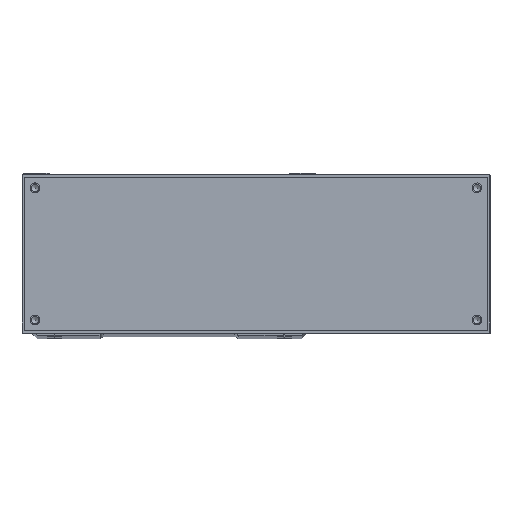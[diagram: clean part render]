
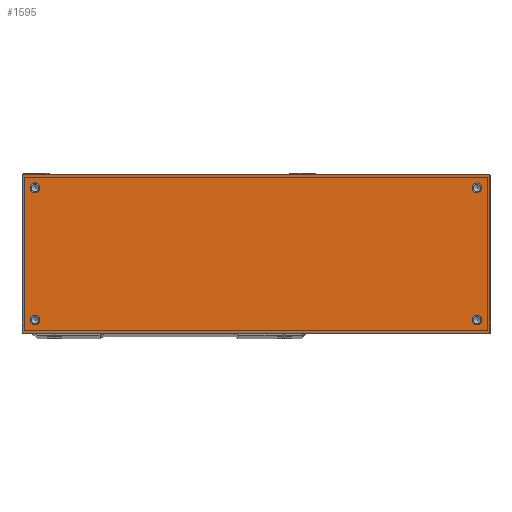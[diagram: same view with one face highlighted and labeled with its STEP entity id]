
A CAD part, top view. The second image highlights one B-rep face of the part: STEP entity #1595.
In plain terms, the highlighted planar face has unit normal (0, 0, 1).
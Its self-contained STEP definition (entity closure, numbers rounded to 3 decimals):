
#1595=ADVANCED_FACE('8',(#2755,#2756,#2757,#2758,#2759),#2361,.F.);
#2361=PLANE('',#16391);
#2755=FACE_BOUND('',#3772,.T.);
#2756=FACE_BOUND('',#3773,.T.);
#2757=FACE_BOUND('',#3774,.T.);
#2758=FACE_BOUND('',#3775,.T.);
#2759=FACE_BOUND('',#3776,.T.);
#3772=EDGE_LOOP('',(#6986));
#3773=EDGE_LOOP('',(#6987));
#3774=EDGE_LOOP('',(#6988));
#3775=EDGE_LOOP('',(#6989));
#3776=EDGE_LOOP('',(#6990,#6991,#6992,#6993));
#5156=CIRCLE('',#16387,2.25);
#5157=CIRCLE('',#16388,2.25);
#5158=CIRCLE('',#16389,2.25);
#5159=CIRCLE('',#16390,2.25);
#6986=ORIENTED_EDGE('',*,*,#12492,.F.);
#6987=ORIENTED_EDGE('',*,*,#12493,.F.);
#6988=ORIENTED_EDGE('',*,*,#12494,.F.);
#6989=ORIENTED_EDGE('',*,*,#12495,.F.);
#6990=ORIENTED_EDGE('',*,*,#12496,.F.);
#6991=ORIENTED_EDGE('',*,*,#12497,.F.);
#6992=ORIENTED_EDGE('',*,*,#12393,.F.);
#6993=ORIENTED_EDGE('',*,*,#12408,.F.);
#10633=VERTEX_POINT('',#24850);
#10634=VERTEX_POINT('',#24852);
#10641=VERTEX_POINT('',#24876);
#10680=VERTEX_POINT('',#25410);
#10681=VERTEX_POINT('',#25412);
#10682=VERTEX_POINT('',#25414);
#10683=VERTEX_POINT('',#25416);
#10684=VERTEX_POINT('',#25418);
#12393=EDGE_CURVE('',#10633,#10634,#14138,.T.);
#12408=EDGE_CURVE('',#10641,#10633,#14151,.T.);
#12492=EDGE_CURVE('',#10680,#10680,#5156,.T.);
#12493=EDGE_CURVE('',#10681,#10681,#5157,.T.);
#12494=EDGE_CURVE('',#10682,#10682,#5158,.T.);
#12495=EDGE_CURVE('',#10683,#10683,#5159,.T.);
#12496=EDGE_CURVE('',#10684,#10641,#14192,.T.);
#12497=EDGE_CURVE('',#10634,#10684,#14193,.T.);
#14138=LINE('',#24851,#15225);
#14151=LINE('',#24877,#15238);
#14192=LINE('',#25417,#15279);
#14193=LINE('',#25419,#15280);
#15225=VECTOR('',#19103,1.);
#15238=VECTOR('',#19126,1.);
#15279=VECTOR('',#19281,1.);
#15280=VECTOR('',#19282,1.);
#16387=AXIS2_PLACEMENT_3D('',#25409,#19273,#19274);
#16388=AXIS2_PLACEMENT_3D('',#25411,#19275,#19276);
#16389=AXIS2_PLACEMENT_3D('',#25413,#19277,#19278);
#16390=AXIS2_PLACEMENT_3D('',#25415,#19279,#19280);
#16391=AXIS2_PLACEMENT_3D('',#25420,#19283,#19284);
#19103=DIRECTION('',(0.,1.,0.));
#19126=DIRECTION('',(-1.,0.,0.));
#19273=DIRECTION('',(0.,0.,1.));
#19274=DIRECTION('',(-1.,0.,0.));
#19275=DIRECTION('',(0.,0.,1.));
#19276=DIRECTION('',(1.,0.,0.));
#19277=DIRECTION('',(0.,0.,1.));
#19278=DIRECTION('',(-1.,0.,0.));
#19279=DIRECTION('',(0.,0.,1.));
#19280=DIRECTION('',(1.,0.,0.));
#19281=DIRECTION('',(0.,-1.,0.));
#19282=DIRECTION('',(1.,0.,0.));
#19283=DIRECTION('',(0.,0.,-1.));
#19284=DIRECTION('',(1.,0.,0.));
#24850=CARTESIAN_POINT('',(-68.,0.,193.));
#24851=CARTESIAN_POINT('',(-68.,73.,193.));
#24852=CARTESIAN_POINT('',(-68.,73.,193.));
#24876=CARTESIAN_POINT('',(148.,0.,193.));
#24877=CARTESIAN_POINT('',(148.,0.,193.));
#25409=CARTESIAN_POINT('',(-62.,6.,193.));
#25410=CARTESIAN_POINT('',(-64.25,6.,193.));
#25411=CARTESIAN_POINT('',(142.,6.,193.));
#25412=CARTESIAN_POINT('',(144.25,6.,193.));
#25413=CARTESIAN_POINT('',(142.,67.,193.));
#25414=CARTESIAN_POINT('',(139.75,67.,193.));
#25415=CARTESIAN_POINT('',(-62.,67.,193.));
#25416=CARTESIAN_POINT('',(-59.75,67.,193.));
#25417=CARTESIAN_POINT('',(148.,73.,193.));
#25418=CARTESIAN_POINT('',(148.,73.,193.));
#25419=CARTESIAN_POINT('',(148.,73.,193.));
#25420=CARTESIAN_POINT('',(40.,36.5,193.));
